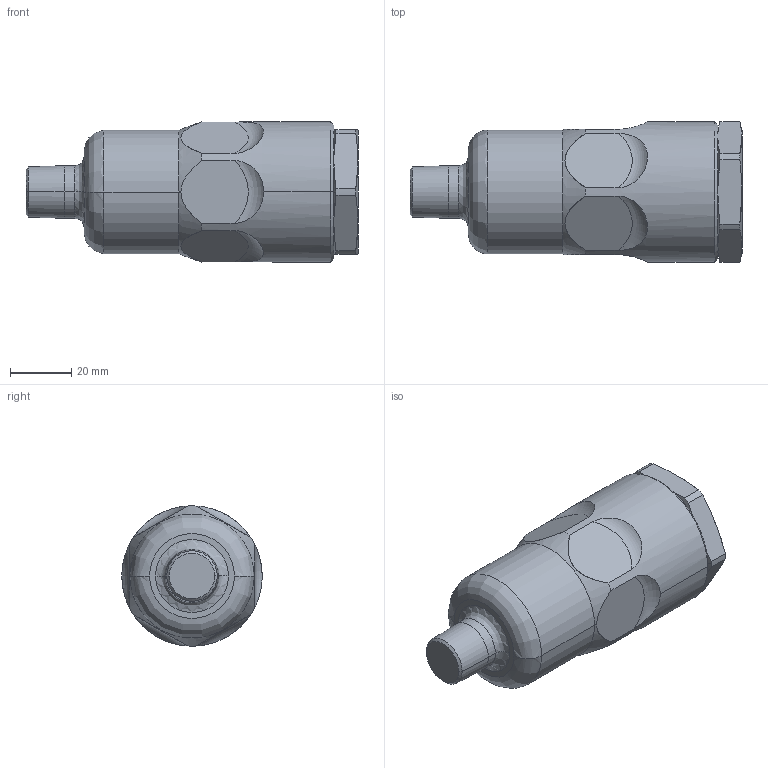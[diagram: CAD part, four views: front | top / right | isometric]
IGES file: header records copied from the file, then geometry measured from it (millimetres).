
Start section:  PTC IGES file: 77x523-en-b.igs
Global section: file name: 77x523-en-b.igs; native system: Creo Parametric by PTC Inc.; preprocessor: 2019030; author: qusrh3; organization: Unknown; date: 20200101.115609; units: inch
Bounding box: 108.25 x 45.72 x 45.72 mm (x, y, z)
Surface area: 17504.9 mm2 (no closed solid volume)
Topology: 0 solids, 0 shells, 50 faces, 248 edges, 248 vertices
Faces by surface type: revolution 34, bspline 16
